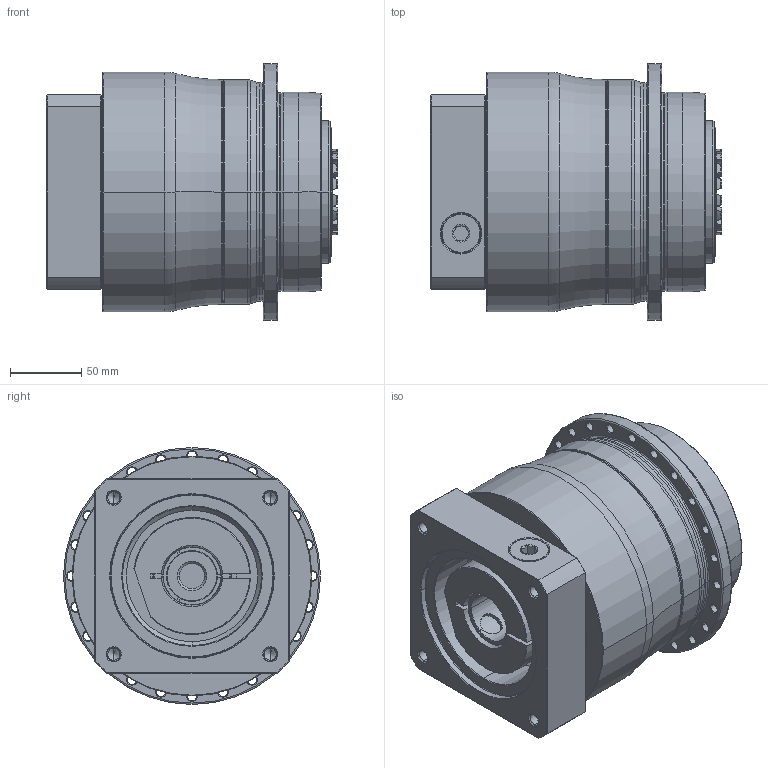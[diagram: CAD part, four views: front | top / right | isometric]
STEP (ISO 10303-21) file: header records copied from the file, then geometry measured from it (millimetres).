
FILE_DESCRIPTION((''),'2;1');
FILE_NAME('APC140_2ST_35-P0409800201_ASM','2018-06-28T',('d01226'),(''),'PRO/ENGINEER BY PARAMETRIC TECHNOLOGY CORPORATION, 2008410','PRO/ENGINEER BY PARAMETRIC TECHNOLOGY CORPORATION, 2008410','');
FILE_SCHEMA(('CONFIG_CONTROL_DESIGN'));
Length unit declared in the file: millimetre
Products named in the file (9): P0278501003; P03595D0103; P1317510401; P0503800012; P0912404001; P1211500001; P0409800201; 21711422019; APC140_2ST_35-P0409800201_ASM
Assembly tree (8 placements, depth 2):
  APC140_2ST_35-P0409800201_ASM
    P0278501003
    P03595D0103
    P1317510401
    P0503800012
    P0912404001
    P1211500001
    P0409800201
    21711422019
Bounding box: 204.1 x 180 x 180 mm (x, y, z)
Volume: 3329859.6 mm3; surface area: 360866.7 mm2
Topology: 9 solids, 19 shells, 680 faces, 1631 edges, 993 vertices
Faces by surface type: cone 228, cylinder 212, plane 124, torus 102, bspline 14
Entity records: 25097 total; most frequent: CARTESIAN_POINT 8852, DIRECTION 3637, ORIENTED_EDGE 3184, EDGE_CURVE 1613, AXIS2_PLACEMENT_3D 1578, VERTEX_POINT 993, CIRCLE 885, EDGE_LOOP 786
